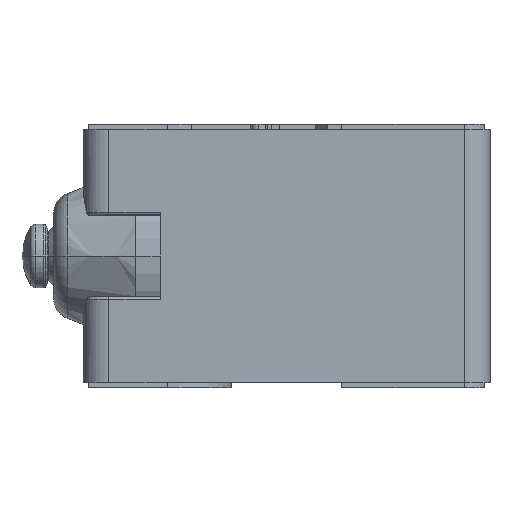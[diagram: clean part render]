
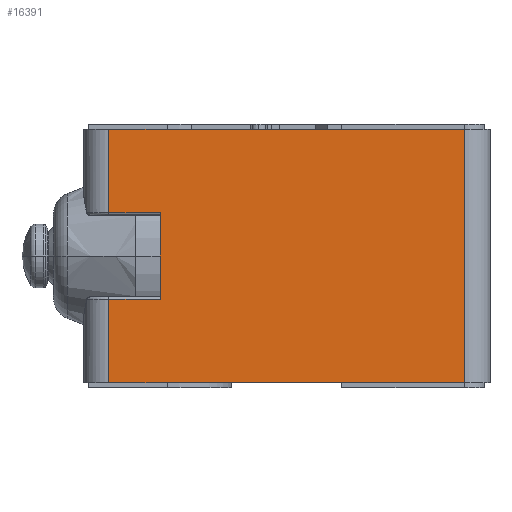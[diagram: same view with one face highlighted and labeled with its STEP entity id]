
A CAD part, left-side view. The second image highlights one B-rep face of the part: STEP entity #16391.
In plain terms, the highlighted planar face has unit normal (-1, 0, 0) as drawn and (1, 0, 0) by its records, which use the part's own axes.
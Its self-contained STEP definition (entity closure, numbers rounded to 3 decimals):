
#176=DIRECTION('',(0.,1.,0.));
#177=VECTOR('',#176,13.9);
#178=CARTESIAN_POINT('',(2.8,-1.8,4.95));
#179=LINE('',#178,#177);
#641=DIRECTION('',(0.,1.,0.));
#642=VECTOR('',#641,13.9);
#643=CARTESIAN_POINT('',(2.8,-1.8,-4.95));
#644=LINE('',#643,#642);
#3631=DIRECTION('',(0.,0.,1.));
#3632=VECTOR('',#3631,3.4);
#3633=CARTESIAN_POINT('',(2.8,10.1,-1.7));
#3634=LINE('',#3633,#3632);
#3992=DIRECTION('',(0.,-1.,0.));
#3993=VECTOR('',#3992,2.);
#3994=CARTESIAN_POINT('',(2.8,12.1,-1.7));
#3995=LINE('',#3994,#3993);
#3996=DIRECTION('',(0.,0.,-1.));
#3997=VECTOR('',#3996,3.25);
#3998=CARTESIAN_POINT('',(2.8,12.1,-1.7));
#3999=LINE('',#3998,#3997);
#4000=DIRECTION('',(0.,0.,-1.));
#4001=VECTOR('',#4000,9.9);
#4002=CARTESIAN_POINT('',(2.8,-1.8,4.95));
#4003=LINE('',#4002,#4001);
#4004=DIRECTION('',(0.,0.,-1.));
#4005=VECTOR('',#4004,3.25);
#4006=CARTESIAN_POINT('',(2.8,12.1,4.95));
#4007=LINE('',#4006,#4005);
#4008=DIRECTION('',(0.,1.,0.));
#4009=VECTOR('',#4008,2.);
#4010=CARTESIAN_POINT('',(2.8,10.1,1.7));
#4011=LINE('',#4010,#4009);
#10299=CARTESIAN_POINT('',(2.8,-1.8,-4.95));
#10301=VERTEX_POINT('',#10299);
#10305=CARTESIAN_POINT('',(2.8,-1.8,4.95));
#10306=VERTEX_POINT('',#10305);
#10308=CARTESIAN_POINT('',(2.8,12.1,-4.95));
#10310=VERTEX_POINT('',#10308);
#10311=CARTESIAN_POINT('',(2.8,12.1,4.95));
#10313=VERTEX_POINT('',#10311);
#10820=CARTESIAN_POINT('',(2.8,12.1,-1.7));
#10821=CARTESIAN_POINT('',(2.8,10.1,-1.7));
#10822=VERTEX_POINT('',#10820);
#10823=VERTEX_POINT('',#10821);
#10876=CARTESIAN_POINT('',(2.8,10.1,1.7));
#10877=CARTESIAN_POINT('',(2.8,12.1,1.7));
#10878=VERTEX_POINT('',#10876);
#10879=VERTEX_POINT('',#10877);
#16372=CARTESIAN_POINT('',(2.8,-2.8,-4.95));
#16373=DIRECTION('',(1.,0.,0.));
#16374=DIRECTION('',(0.,1.,0.));
#16375=AXIS2_PLACEMENT_3D('',#16372,#16373,#16374);
#16376=PLANE('',#16375);
#16378=ORIENTED_EDGE('',*,*,#16377,.F.);
#16380=ORIENTED_EDGE('',*,*,#16379,.T.);
#16381=ORIENTED_EDGE('',*,*,#13984,.F.);
#16382=ORIENTED_EDGE('',*,*,#16367,.F.);
#16383=ORIENTED_EDGE('',*,*,#13462,.T.);
#16385=ORIENTED_EDGE('',*,*,#16384,.T.);
#16387=ORIENTED_EDGE('',*,*,#16386,.F.);
#16388=ORIENTED_EDGE('',*,*,#15826,.F.);
#16389=EDGE_LOOP('',(#16378,#16380,#16381,#16382,#16383,#16385,#16387,#16388));
#16390=FACE_OUTER_BOUND('',#16389,.F.);
#16391=ADVANCED_FACE('',(#16390),#16376,.T.);
#13462=EDGE_CURVE('',#10306,#10313,#179,.T.);
#13984=EDGE_CURVE('',#10301,#10310,#644,.T.);
#15826=EDGE_CURVE('',#10823,#10878,#3634,.T.);
#16367=EDGE_CURVE('',#10306,#10301,#4003,.T.);
#16377=EDGE_CURVE('',#10822,#10823,#3995,.T.);
#16379=EDGE_CURVE('',#10822,#10310,#3999,.T.);
#16384=EDGE_CURVE('',#10313,#10879,#4007,.T.);
#16386=EDGE_CURVE('',#10878,#10879,#4011,.T.);
